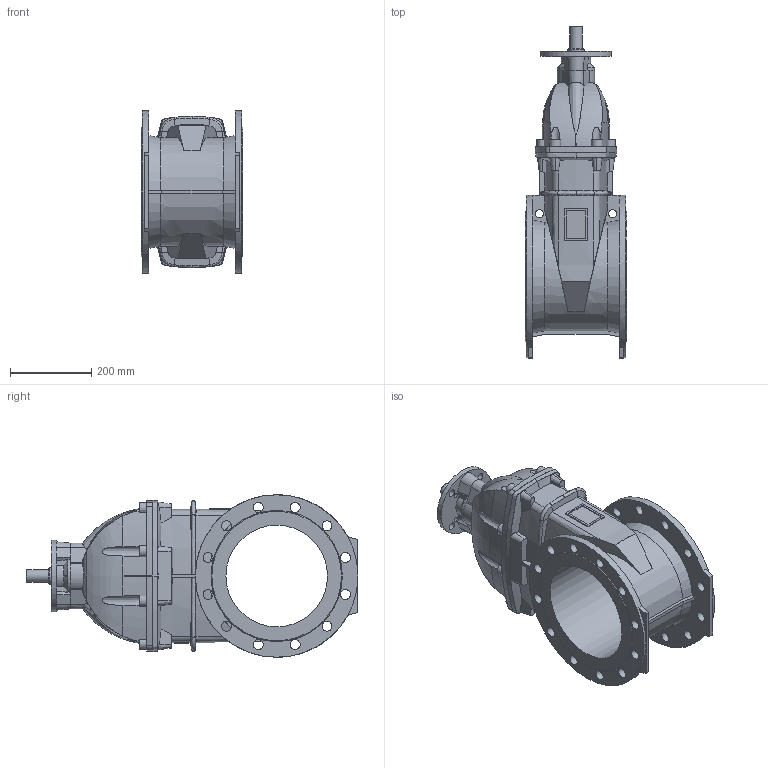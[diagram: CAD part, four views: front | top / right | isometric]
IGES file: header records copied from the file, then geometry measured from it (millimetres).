
Start section: SolidWorks IGES file using analytic representation for surfaces
Global section: file name: D:\Arthur\For Will\Finished\O_15_42_DN250 without AUMA\O_15_42_DN250_00_iges.IGS; native system: SolidWorks 2012; preprocessor: SolidWorks 2012; author: aran; date: 150521.101859; units: millimetre
Bounding box: 250 x 817 x 400 mm (x, y, z)
Surface area: 1196992 mm2 (no closed solid volume)
Topology: 0 solids, 0 shells, 395 faces, 2268 edges, 2186 vertices
Faces by surface type: revolution 198, bspline 197
